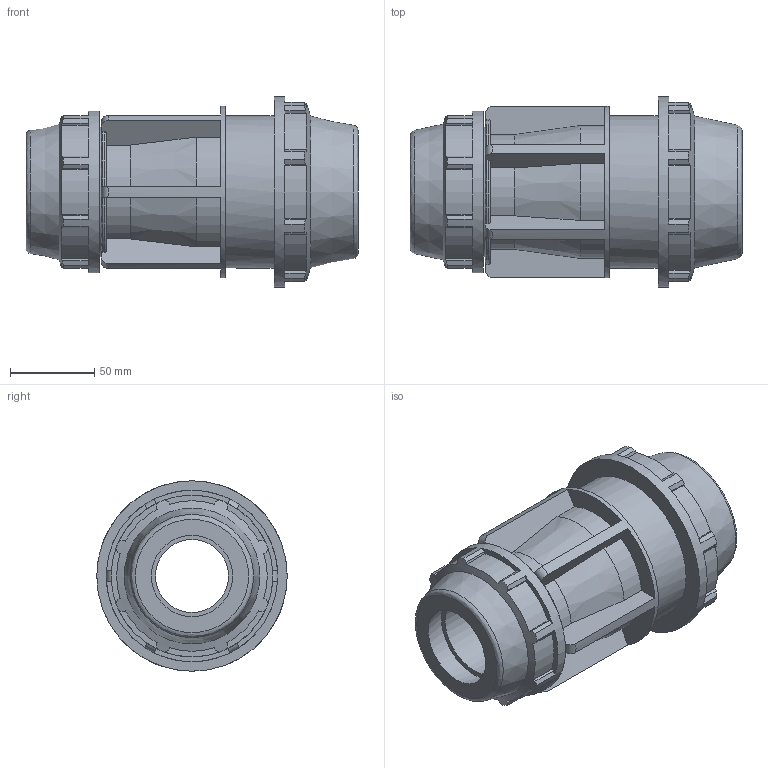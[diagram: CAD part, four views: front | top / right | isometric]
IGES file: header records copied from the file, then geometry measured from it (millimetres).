
Global section: file name: 0711M0020015.ipt; native system: Autodesk Inventor 2019; preprocessor: unknown; author: KIM; date: 20210826.124714; units: inch
Bounding box: 197 x 113.03 x 113.03 mm (x, y, z)
Volume: 692024.5 mm3; surface area: 123528.3 mm2
Topology: 1 solids, 1 shells, 189 faces, 553 edges, 374 vertices
Faces by surface type: plane 114, cylinder 45, revolution 20, cone 10
Full cylindrical faces by diameter (mm): 76.81 x1, 90.424 x1, 96.012 x1, 101.727 x1, 113.03 x1
